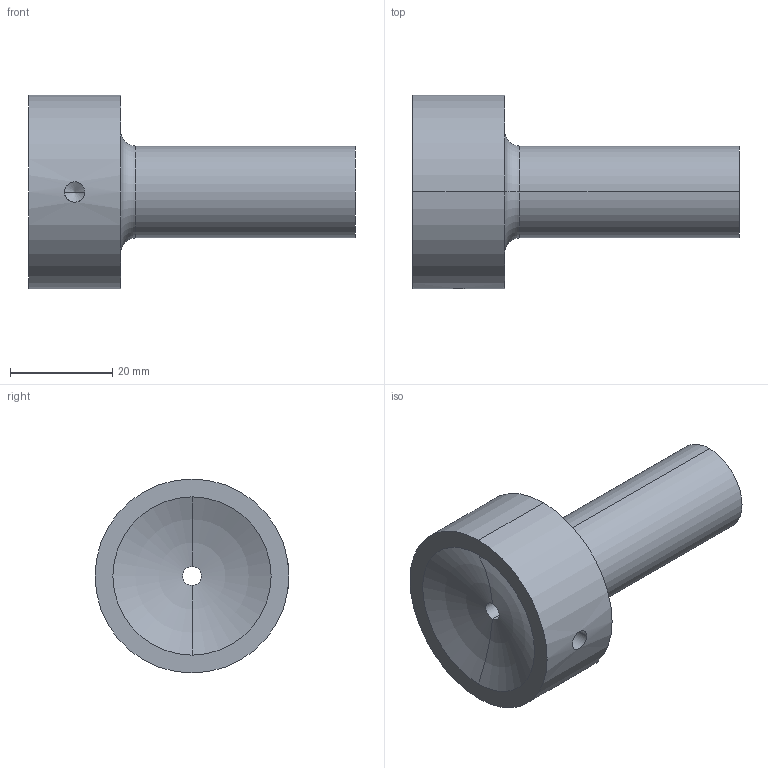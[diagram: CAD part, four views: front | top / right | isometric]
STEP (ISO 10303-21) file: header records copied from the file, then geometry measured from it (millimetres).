
FILE_DESCRIPTION (( 'STEP AP214' ), '1' );
FILE_NAME ('BR51 18x46x3,5x40.STEP', '2019-06-05T15:18:15', ( 'August' ), ( '' ), 'SwSTEP 2.0', 'SolidWorks 2018', '' );
FILE_SCHEMA (( 'AUTOMOTIVE_DESIGN' ));
Length unit declared in the file: millimetre
Products named in the file (1): BR51 18x46x3,5x40
Bounding box: 64 x 38 x 38 mm (x, y, z)
Volume: 29496.5 mm3; surface area: 7979.4 mm2
Topology: 1 solids, 1 shells, 17 faces, 36 edges, 21 vertices
Faces by surface type: cylinder 6, cone 4, torus 4, plane 3
Entity records: 538 total; most frequent: CARTESIAN_POINT 127, DIRECTION 90, ORIENTED_EDGE 68, AXIS2_PLACEMENT_3D 40, EDGE_CURVE 34, CIRCLE 22, EDGE_LOOP 21, VERTEX_POINT 21
